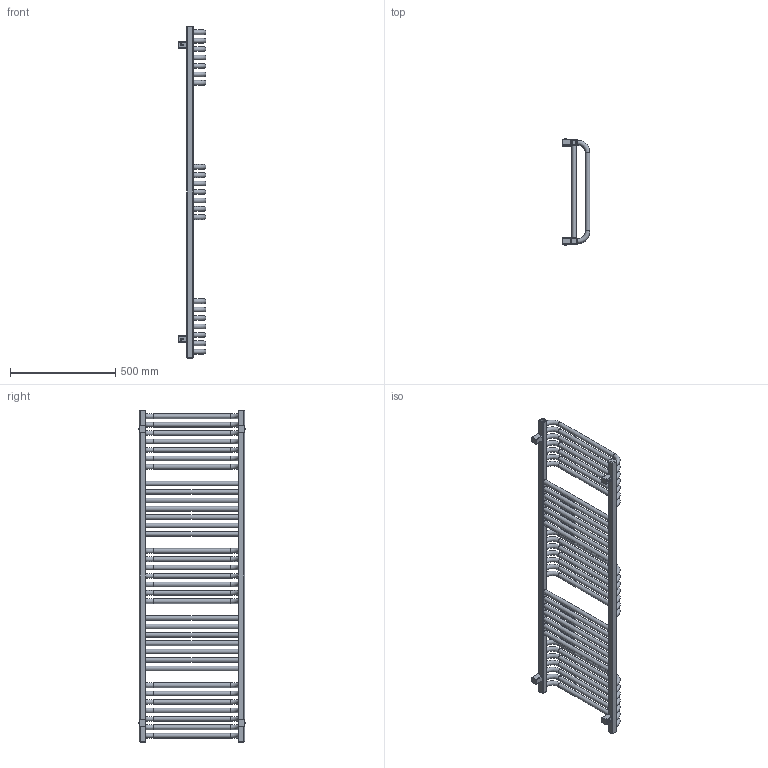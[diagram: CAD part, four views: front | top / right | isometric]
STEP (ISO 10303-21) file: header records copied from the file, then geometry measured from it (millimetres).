
FILE_DESCRIPTION((''),'2;1');
FILE_NAME('Z:\R\G\P\RGP097 - Grzejnik Poll 2012 (ALFA)\Work\Inventor\Marketing\Modele AutoCAD\PLL-1580-500 S5.stp','2012-06-29T12:45:22',('KurKa'),(''),'Autodesk Inventor 2012','Autodesk Inventor 2012','');
FILE_SCHEMA(('AUTOMOTIVE_DESIGN { 1 0 10303 214 1 1 1 1 }'));
Length unit declared in the file: millimetre
Products named in the file (3): PLL-1580-500 S5; MMT42_marketing
Assembly tree (5 placements, depth 2):
  PLL-1580-500 S5
    PLL-1580-500 S5
    MMT42_marketing  x4
Bounding box: 133 x 506 x 1580 mm (x, y, z)
Volume: 9498208 mm3; surface area: 1561139.2 mm2
Topology: 5 solids, 5 shells, 318 faces, 748 edges, 453 vertices
Faces by surface type: plane 115, cylinder 110, torus 50, cone 27, sphere 16
Full cylindrical faces by diameter (mm): 4.509 x4, 12 x4, 18.631 x3, 22 x35
Entity records: 4865 total; most frequent: DIRECTION 904, CARTESIAN_POINT 783, ORIENTED_EDGE 640, AXIS2_PLACEMENT_3D 397, EDGE_LOOP 348, EDGE_CURVE 320, VERTEX_POINT 236, CIRCLE 206
